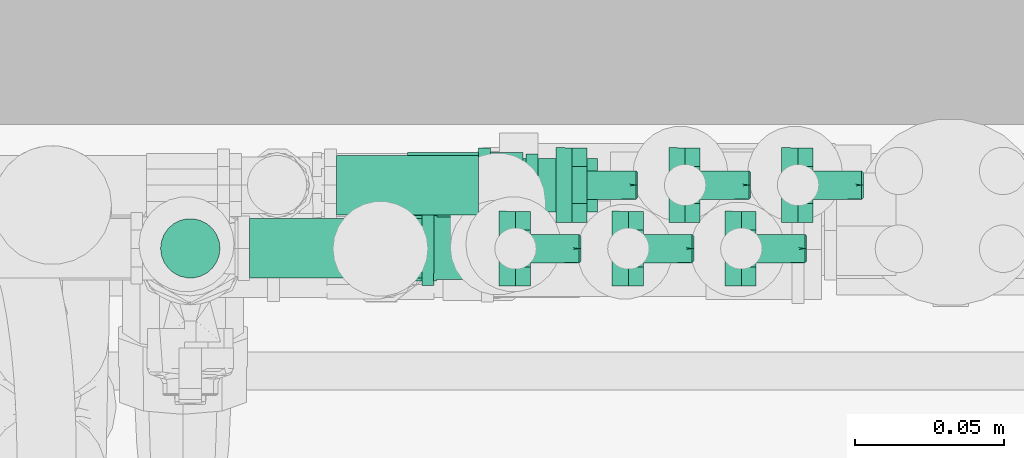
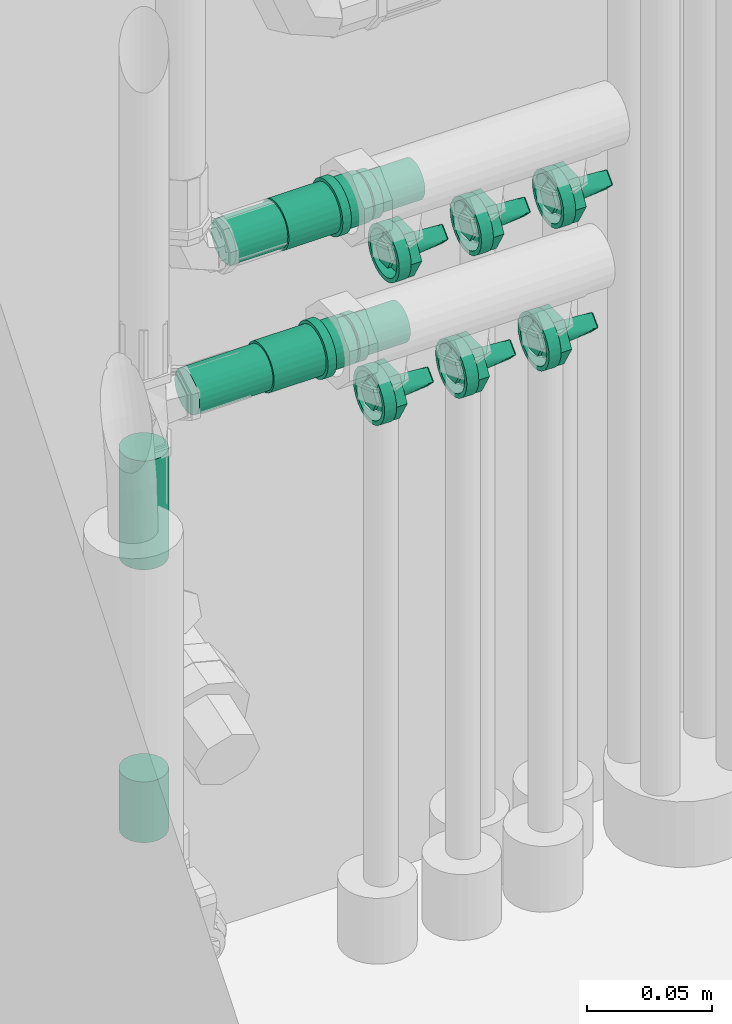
# One storey, part 23 of 32: 8 flow fittings, 4 flow segments.
"""IFC2X3 building model written with IfcOpenShell, lengths in metres."""

import ifcopenshell
import ifcopenshell.guid

model = None  # the IFC model being written
_history = None  # IfcOwnerHistory: only IFC2X3 demands one
_inside = {}  # id of a spatial element -> (the spatial element, [elements in it])
_under = {}  # id of a project, library or spatial element -> (it, [spatial elements below it])
_declared = {}  # id of a project -> (the project, [libraries it declares])
_typed = {}  # id of a type object -> (the type object, [elements of that type])
_made_of = {}  # id of a material, layer set ... -> (it, [elements and type objects made of it])


def new_model(schema):
    """Start an empty IFC model of exactly this schema.

    Asked for "IFC4X3", IfcOpenShell would pick the latest addendum, in which some entities
    have other attributes; the version numbers below select the first issue.
    IFC2X3 requires an IfcOwnerHistory on every rooted entity: one is made here for all.
    """
    global model, _history
    if schema == "IFC4X3":
        model = ifcopenshell.file(schema_version=(4, 3, 0, 0))
    else:
        model = ifcopenshell.file(schema=schema)
    _inside.clear()
    _under.clear()
    _declared.clear()
    _typed.clear()
    _made_of.clear()
    _history = None
    if model.schema == "IFC2X3":
        org = make("IfcOrganization", Name="unknown")
        user = make(
            "IfcPersonAndOrganization",
            ThePerson=make("IfcPerson", FamilyName="unknown"),
            TheOrganization=org,
        )
        app = make(
            "IfcApplication",
            ApplicationDeveloper=org,
            Version="unknown",
            ApplicationFullName="unknown",
            ApplicationIdentifier="unknown",
        )
        _history = make(
            "IfcOwnerHistory",
            OwningUser=user,
            OwningApplication=app,
            ChangeAction="ADDED",
            CreationDate=0,
        )
    return model


def make(cls, **values):
    """One entity of the class cls with the attributes given. An attribute that is None is left unset."""
    return model.create_entity(
        cls, **{name: value for name, value in values.items() if value is not None}
    )


def entity(cls, *values):
    """Any entity or typed value of the class cls, its attributes in the order of the schema. None: left unset."""
    e = model.create_entity(cls)
    for i, value in enumerate(values):
        if value is not None:
            e[i] = value
    return e


def rooted(cls, **values):
    """An entity with a GlobalId (a new one), such as an element, a storey or a relation."""
    return make(cls, GlobalId=ifcopenshell.guid.new(), OwnerHistory=_history, **values)


def si_unit(unit_type, name, prefix=None):
    """IfcSIUnit, for example si_unit("LENGTHUNIT", "METRE", prefix="MILLI")."""
    return make("IfcSIUnit", UnitType=unit_type, Prefix=prefix, Name=name)


def converted_unit(unit_type, name, factor, base, dimensions=None, offset=None):
    """IfcConversionBasedUnit, such as the inch: factor (a typed value) times the base unit."""
    return make(
        "IfcConversionBasedUnit"
        if offset is None
        else "IfcConversionBasedUnitWithOffset",
        ConversionOffset=offset,
        Dimensions=None
        if dimensions is None
        else entity("IfcDimensionalExponents", *dimensions),
        UnitType=unit_type,
        Name=name,
        ConversionFactor=make(
            "IfcMeasureWithUnit", ValueComponent=factor, UnitComponent=base
        ),
    )


def derived_unit(unit_type, elements):
    """IfcDerivedUnit: a product of units, each with its exponent."""
    return make(
        "IfcDerivedUnit",
        Elements=[
            make("IfcDerivedUnitElement", Unit=unit, Exponent=power)
            for unit, power in elements
        ],
        UnitType=unit_type,
    )


def assignment(units):
    """IfcUnitAssignment: the units of a project."""
    return None if units is None else make("IfcUnitAssignment", Units=units)


def point(xyz):
    """IfcCartesianPoint."""
    return None if xyz is None else make("IfcCartesianPoint", Coordinates=xyz)


def direction(xyz):
    """IfcDirection."""
    return None if xyz is None else make("IfcDirection", DirectionRatios=xyz)


def frame(location, z_axis=None, x_axis=None):
    """IfcAxis2Placement3D, a coordinate frame: its origin and axes. An axis left out is left unset."""
    return make(
        "IfcAxis2Placement3D",
        Location=point(location),
        Axis=direction(z_axis),
        RefDirection=direction(x_axis),
    )


def frame_2d(location, x_axis=None):
    """IfcAxis2Placement2D, a coordinate frame in the plane: its origin and x axis."""
    return make(
        "IfcAxis2Placement2D", Location=point(location), RefDirection=direction(x_axis)
    )


def origin():
    """The frame at (0, 0, 0) with its axes left unset."""
    return frame((0.0, 0.0, 0.0))


def origin_2d_with_axis():
    """The frame at (0, 0) in the plane with the x axis (1, 0) written out."""
    return frame_2d((0.0, 0.0), x_axis=(1.0, 0.0))


def place(relative_to, where):
    """IfcLocalPlacement: puts the frame where relative to a parent placement (None: the world)."""
    return make(
        "IfcLocalPlacement", PlacementRelTo=relative_to, RelativePlacement=where
    )


def context(
    kind, dimensions, precision=None, world=None, true_north=None, identifier=None
):
    """IfcGeometricRepresentationContext, for example the 3D "Model" context."""
    return make(
        "IfcGeometricRepresentationContext",
        ContextIdentifier=identifier,
        ContextType=kind,
        CoordinateSpaceDimension=dimensions,
        Precision=precision,
        WorldCoordinateSystem=world,
        TrueNorth=true_north,
    )


def subcontext(parent, identifier, kind, view, scale=None):
    """IfcGeometricRepresentationSubContext, for example "Body" below "Model"."""
    return make(
        "IfcGeometricRepresentationSubContext",
        ContextIdentifier=identifier,
        ContextType=kind,
        ParentContext=parent,
        TargetScale=scale,
        TargetView=view,
    )


def project(units=None, contexts=None):
    """IfcProject with its units and contexts."""
    return rooted(
        "IfcProject",
        Name="project",
        RepresentationContexts=contexts,
        UnitsInContext=assignment(units),
    )


def spatial(cls, under=None, at=None, **own):
    """A site, building, storey or space (cls), placed at a placement, below another one or the project."""
    s = rooted(cls, ObjectPlacement=at, **own)
    if under is not None:
        _under.setdefault(under.id(), (under, []))[1].append(s)
    return s


def profile(cls, at=None, kind="AREA", **sizes):
    """A parametric profile (cls). Its sizes go by their IFC names, for example OverallWidth=200.0."""
    return make(cls, ProfileType=kind, Position=at, **sizes)


def circle(**sizes):
    """IfcCircleProfileDef."""
    return profile("IfcCircleProfileDef", **sizes)


def extrude(swept, where, along, depth):
    """IfcExtrudedAreaSolid: the profile swept, set in the frame where, extruded along a direction by depth."""
    return make(
        "IfcExtrudedAreaSolid",
        SweptArea=swept,
        Position=where,
        ExtrudedDirection=direction(along),
        Depth=depth,
    )


def faces_of(points, faces, orient=None, outer=None):
    """IfcFace entities. A face is a list of loops; a loop is a list of indices into points, from 0.

    orient and outer hold one flag for each loop. By default every Orientation is true, the
    first loop of a face is its IfcFaceOuterBound and the others are IfcFaceBound.
    """
    made = []
    for i, loops in enumerate(faces):
        bounds = []
        for j, loop in enumerate(loops):
            is_outer = j == 0 if outer is None else outer[i][j]
            bounds.append(
                make(
                    "IfcFaceOuterBound" if is_outer else "IfcFaceBound",
                    Bound=make("IfcPolyLoop", Polygon=[points[k] for k in loop]),
                    Orientation=True if orient is None else orient[i][j],
                )
            )
        made.append(make("IfcFace", Bounds=bounds))
    return made


def faceted_brep(points, faces, orient=None, outer=None, voids=None):
    """IfcFacetedBrep: a solid bounded by flat faces; with voids (closed shells), ...WithVoids."""
    shared = [point(p) for p in points]
    hull = make("IfcClosedShell", CfsFaces=faces_of(shared, faces, orient, outer))
    if voids is None:
        return make("IfcFacetedBrep", Outer=hull)
    return make(
        "IfcFacetedBrepWithVoids",
        Outer=hull,
        Voids=[
            make(cls, CfsFaces=faces_of(shared, fs, o, b)) for cls, fs, o, b in voids
        ],
    )


def shape(context_of_items, identifier, shape_type, items):
    """IfcShapeRepresentation: the items that make up one representation, for example the "Body"."""
    return make(
        "IfcShapeRepresentation",
        ContextOfItems=context_of_items,
        RepresentationIdentifier=identifier,
        RepresentationType=shape_type,
        Items=items,
    )


def source(mapping_origin, context_of_items, identifier, shape_type, items):
    """IfcRepresentationMap: a shape defined once, which mapped items show again and again."""
    return make(
        "IfcRepresentationMap",
        MappingOrigin=mapping_origin,
        MappedRepresentation=shape(context_of_items, identifier, shape_type, items),
    )


def transform(
    local_origin,
    x_axis=None,
    y_axis=None,
    z_axis=None,
    scale=None,
    scale2=None,
    scale3=None,
    uniform=True,
):
    """IfcCartesianTransformationOperator3D, or its non-uniform kind. x_axis, y_axis, z_axis: its Axis1, 2, 3."""
    if uniform:
        return make(
            "IfcCartesianTransformationOperator3D",
            Axis1=direction(x_axis),
            Axis2=direction(y_axis),
            LocalOrigin=point(local_origin),
            Scale=scale,
            Axis3=direction(z_axis),
        )
    return make(
        "IfcCartesianTransformationOperator3DnonUniform",
        Axis1=direction(x_axis),
        Axis2=direction(y_axis),
        LocalOrigin=point(local_origin),
        Scale=scale,
        Axis3=direction(z_axis),
        Scale2=scale2,
        Scale3=scale3,
    )


def mapped(mapping_source, mapping_target):
    """IfcMappedItem: shows the shape of a source again, moved by a transform."""
    return make(
        "IfcMappedItem", MappingSource=mapping_source, MappingTarget=mapping_target
    )


def material(Name=None, Category=None):
    """IfcMaterial."""
    return make("IfcMaterial", Name=Name, Category=Category)


def material_list(materials):
    """IfcMaterialList."""
    return make("IfcMaterialList", Materials=materials)


def made_of(thing, what):
    """Note that an element or type object is made of a material, layer set ...; save() writes the relation."""
    if what is not None:
        _made_of.setdefault(what.id(), (what, []))[1].append(thing)
    return thing


def type_object(cls, material=None, **own):
    """A type object (cls), such as IfcWallType, which elements share."""
    return made_of(rooted(cls, **own), material)


def type_shapes(of_type, sources):
    """Give a type object the sources (RepresentationMaps) that its elements show as mapped items."""
    of_type.RepresentationMaps = sources


def element(
    cls,
    number,
    at=None,
    inside=None,
    cuts=None,
    type_object=None,
    material=None,
    context=None,
    identifier="Body",
    shape_type=None,
    held_by="IfcProductDefinitionShape",
    body=None,
    shapes=None,
    **own,
):
    """One element of the class cls, such as IfcWall. Its Tag is "e" and its number.

    at: its placement. inside: the storey or other place that contains it. cuts: it is an
    opening in that element (IfcRelVoidsElement). A single representation is given by context,
    identifier, shape_type and body (its items); several are given by shapes. held_by: the class
    of the entity that holds the representations. save() writes the other relations.
    """
    e = rooted(cls, Tag="e%d" % number, ObjectPlacement=at, **own)
    if body is not None:
        shapes = [shape(context, identifier, shape_type, body)]
    if shapes is not None:
        e.Representation = make(held_by, Representations=shapes)
    if inside is not None:
        _inside.setdefault(inside.id(), (inside, []))[1].append(e)
    if cuts is not None:
        rooted(
            "IfcRelVoidsElement", RelatingBuildingElement=cuts, RelatedOpeningElement=e
        )
    if type_object is not None:
        _typed.setdefault(type_object.id(), (type_object, []))[1].append(e)
    return made_of(e, material)


def aggregate(whole, parts):
    """IfcRelAggregates: a whole, such as a stair, and the parts it consists of."""
    return rooted("IfcRelAggregates", RelatingObject=whole, RelatedObjects=parts)


def save(model, path):
    """Write the relations noted so far, then the file.

    IfcRelAggregates (storeys below a building ...), IfcRelContainedInSpatialStructure (elements
    in a storey), IfcRelDefinesByType, IfcRelAssociatesMaterial and IfcRelDeclares: one each for
    every whole, place, type object, material and project.
    """
    for whole, parts in _under.values():
        aggregate(whole, parts)
    for where, things in _inside.values():
        rooted(
            "IfcRelContainedInSpatialStructure",
            RelatedElements=things,
            RelatingStructure=where,
        )
    for kind, things in _typed.values():
        rooted("IfcRelDefinesByType", RelatedObjects=things, RelatingType=kind)
    for what, things in _made_of.values():
        rooted("IfcRelAssociatesMaterial", RelatedObjects=things, RelatingMaterial=what)
    for by, libraries in _declared.values():
        rooted("IfcRelDeclares", RelatingContext=by, RelatedDefinitions=libraries)
    model.write(path)


model = new_model("IFC2X3")

# Units and contexts
model_context = context("Model", 3, precision=1e-05, world=origin(), true_north=direction((6.123031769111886e-17, 1.0)))
body_context = subcontext(model_context, "Body", "Model", "MODEL_VIEW")
ifc_project = project(units=[si_unit("LENGTHUNIT", "METRE"), si_unit("AREAUNIT", "SQUARE_METRE"), si_unit("VOLUMEUNIT", "CUBIC_METRE"), converted_unit("PLANEANGLEUNIT", "DEGREE", entity("IfcPlaneAngleMeasure", 0.017453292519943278), si_unit("PLANEANGLEUNIT", "RADIAN"), dimensions=[0, 0, 0, 0, 0, 0, 0]), si_unit("MASSUNIT", "GRAM", prefix="KILO"), derived_unit("MASSDENSITYUNIT", [(si_unit("MASSUNIT", "GRAM", prefix="KILO"), 1), (si_unit("LENGTHUNIT", "METRE"), -3)]), derived_unit("IONCONCENTRATIONUNIT", [(si_unit("MASSUNIT", "GRAM", prefix="KILO"), 1), (si_unit("LENGTHUNIT", "METRE"), -3)]), derived_unit("MOMENTOFINERTIAUNIT", [(si_unit("LENGTHUNIT", "METRE"), 4)]), si_unit("TIMEUNIT", "SECOND"), si_unit("FREQUENCYUNIT", "HERTZ"), si_unit("THERMODYNAMICTEMPERATUREUNIT", "DEGREE_CELSIUS"), derived_unit("THERMALTRANSMITTANCEUNIT", [(si_unit("MASSUNIT", "GRAM", prefix="KILO"), 1), (si_unit("THERMODYNAMICTEMPERATUREUNIT", "KELVIN"), -1), (si_unit("TIMEUNIT", "SECOND"), -3)]), derived_unit("THERMALCONDUCTANCEUNIT", [(si_unit("MASSUNIT", "GRAM", prefix="KILO"), 1), (si_unit("THERMODYNAMICTEMPERATUREUNIT", "KELVIN"), -1), (si_unit("TIMEUNIT", "SECOND"), -3), (si_unit("LENGTHUNIT", "METRE"), 1)]), derived_unit("VOLUMETRICFLOWRATEUNIT", [(si_unit("LENGTHUNIT", "METRE", prefix="DECI"), 3), (si_unit("TIMEUNIT", "SECOND"), -1)]), derived_unit("MASSFLOWRATEUNIT", [(si_unit("MASSUNIT", "GRAM", prefix="KILO"), 1), (si_unit("TIMEUNIT", "SECOND"), -1)]), derived_unit("ROTATIONALFREQUENCYUNIT", [(si_unit("TIMEUNIT", "SECOND"), -1)]), si_unit("ELECTRICCURRENTUNIT", "AMPERE"), si_unit("ELECTRICVOLTAGEUNIT", "VOLT"), si_unit("POWERUNIT", "WATT"), si_unit("FORCEUNIT", "NEWTON", prefix="KILO"), si_unit("ILLUMINANCEUNIT", "LUX"), si_unit("LUMINOUSFLUXUNIT", "LUMEN"), si_unit("LUMINOUSINTENSITYUNIT", "CANDELA"), si_unit("ENERGYUNIT", "JOULE"), derived_unit("USERDEFINED", [(si_unit("MASSUNIT", "GRAM", prefix="KILO"), -1), (si_unit("LENGTHUNIT", "METRE"), -2), (si_unit("TIMEUNIT", "SECOND"), 3), (si_unit("LUMINOUSFLUXUNIT", "LUMEN"), 1)]), derived_unit("USERDEFINED", [(si_unit("MASSUNIT", "GRAM", prefix="KILO"), 1), (si_unit("TIMEUNIT", "SECOND"), -3), (si_unit("LENGTHUNIT", "METRE"), 3), (si_unit("ELECTRICCURRENTUNIT", "AMPERE"), -2)]), derived_unit("SOUNDPOWERUNIT", [(si_unit("MASSUNIT", "GRAM", prefix="KILO"), 1), (si_unit("TIMEUNIT", "SECOND"), -3), (si_unit("LENGTHUNIT", "METRE"), 2)]), derived_unit("SOUNDPRESSUREUNIT", [(si_unit("MASSUNIT", "GRAM", prefix="KILO"), 1), (si_unit("LENGTHUNIT", "METRE"), -1), (si_unit("TIMEUNIT", "SECOND"), -2)]), derived_unit("LINEARVELOCITYUNIT", [(si_unit("LENGTHUNIT", "METRE"), 1), (si_unit("TIMEUNIT", "SECOND"), -1)]), si_unit("PRESSUREUNIT", "PASCAL"), derived_unit("USERDEFINED", [(si_unit("MASSUNIT", "GRAM", prefix="KILO"), 1), (si_unit("LENGTHUNIT", "METRE"), -2), (si_unit("TIMEUNIT", "SECOND"), -2)]), derived_unit("LINEARFORCEUNIT", [(si_unit("MASSUNIT", "GRAM", prefix="KILO"), 1), (si_unit("TIMEUNIT", "SECOND"), -2)]), derived_unit("PLANARFORCEUNIT", [(si_unit("MASSUNIT", "GRAM", prefix="KILO"), 1), (si_unit("LENGTHUNIT", "METRE"), -1), (si_unit("TIMEUNIT", "SECOND"), -2)]), derived_unit("SPECIFICHEATCAPACITYUNIT", [(si_unit("THERMODYNAMICTEMPERATUREUNIT", "KELVIN"), -1), (si_unit("LENGTHUNIT", "METRE"), 2), (si_unit("TIMEUNIT", "SECOND"), -2)]), derived_unit("HEATFLUXDENSITYUNIT", [(si_unit("MASSUNIT", "GRAM", prefix="KILO"), 1), (si_unit("TIMEUNIT", "SECOND"), -3)]), derived_unit("HEATINGVALUEUNIT", [(si_unit("LENGTHUNIT", "METRE"), 2), (si_unit("TIMEUNIT", "SECOND"), -2)]), derived_unit("VAPORPERMEABILITYUNIT", [(si_unit("LENGTHUNIT", "METRE"), -1), (si_unit("TIMEUNIT", "SECOND"), 1)]), derived_unit("DYNAMICVISCOSITYUNIT", [(si_unit("MASSUNIT", "GRAM", prefix="KILO"), 1), (si_unit("TIMEUNIT", "SECOND"), -1), (si_unit("LENGTHUNIT", "METRE"), -1)]), derived_unit("THERMALEXPANSIONCOEFFICIENTUNIT", [(si_unit("THERMODYNAMICTEMPERATUREUNIT", "KELVIN"), -1)]), derived_unit("MODULUSOFELASTICITYUNIT", [(si_unit("MASSUNIT", "GRAM", prefix="KILO"), 1), (si_unit("LENGTHUNIT", "METRE"), -1), (si_unit("TIMEUNIT", "SECOND"), -2)]), derived_unit("ISOTHERMALMOISTURECAPACITYUNIT", [(si_unit("MASSUNIT", "GRAM", prefix="KILO"), -1), (si_unit("LENGTHUNIT", "METRE"), 3)]), derived_unit("MOISTUREDIFFUSIVITYUNIT", [(si_unit("TIMEUNIT", "SECOND"), -1), (si_unit("LENGTHUNIT", "METRE"), 2)]), derived_unit("MASSPERLENGTHUNIT", [(si_unit("MASSUNIT", "GRAM", prefix="KILO"), 1), (si_unit("LENGTHUNIT", "METRE"), -1)]), derived_unit("THERMALRESISTANCEUNIT", [(si_unit("MASSUNIT", "GRAM", prefix="KILO"), -1), (si_unit("TIMEUNIT", "SECOND"), 3), (si_unit("THERMODYNAMICTEMPERATUREUNIT", "KELVIN"), 1)]), derived_unit("ACCELERATIONUNIT", [(si_unit("LENGTHUNIT", "METRE"), 1), (si_unit("TIMEUNIT", "SECOND"), -2)]), derived_unit("ANGULARVELOCITYUNIT", [(si_unit("TIMEUNIT", "SECOND"), -1), (si_unit("PLANEANGLEUNIT", "RADIAN"), 1)]), derived_unit("LINEARSTIFFNESSUNIT", [(si_unit("MASSUNIT", "GRAM", prefix="KILO"), 1), (si_unit("TIMEUNIT", "SECOND"), -2)]), derived_unit("WARPINGCONSTANTUNIT", [(si_unit("LENGTHUNIT", "METRE"), 6)]), derived_unit("LINEARMOMENTUNIT", [(si_unit("MASSUNIT", "GRAM", prefix="KILO"), 1), (si_unit("LENGTHUNIT", "METRE"), 1), (si_unit("TIMEUNIT", "SECOND"), -2)]), derived_unit("TORQUEUNIT", [(si_unit("MASSUNIT", "GRAM", prefix="KILO"), 1), (si_unit("LENGTHUNIT", "METRE"), 2), (si_unit("TIMEUNIT", "SECOND"), -2)])], contexts=[model_context])

# Site, building, storey
site_placement = place(None, origin())
site = spatial("IfcSite", under=ifc_project, at=site_placement, Name="Default", CompositionType="ELEMENT")
building_placement = place(site_placement, origin())
building = spatial("IfcBuilding", under=site, at=building_placement, CompositionType="ELEMENT")
storey_placement = place(building_placement, origin())
storey = spatial("IfcBuildingStorey", under=building, at=storey_placement, Name="Niveau 0", CompositionType="ELEMENT", Elevation=-1.949160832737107e-14)

# Flow segments
pipe_segment_type = type_object("IfcPipeSegmentType", Name="Canalisation:COMAP MULTISKIN - SKINPRESS PPSU", PredefinedType="NOTDEFINED")
flow_segment_1_placement = place(storey_placement, origin())
element("IfcFlowSegment", 1, at=flow_segment_1_placement, inside=storey, type_object=pipe_segment_type, Name="Canalisation:COMAP MULTISKIN - SKINPRESS PPSU", ObjectType="Canalisation:COMAP MULTISKIN - SKINPRESS PPSU", context=body_context, shape_type="SweptSolid", body=[
    extrude(circle(Radius=0.01, at=origin_2d_with_axis()), frame((-14.012760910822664, 2.826796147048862, 0.29999999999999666), z_axis=(1.0, 0.0, 0.0), x_axis=(0.0, -1.0, 0.0)), (0.0, 0.0, 1.0), 0.05797075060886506),
])
flow_segment_2_placement = place(storey_placement, origin())
element("IfcFlowSegment", 2, at=flow_segment_2_placement, inside=storey, type_object=pipe_segment_type, Name="Canalisation:COMAP MULTISKIN - SKINPRESS PPSU", ObjectType="Canalisation:COMAP MULTISKIN - SKINPRESS PPSU", context=body_context, shape_type="SweptSolid", body=[
    extrude(circle(Radius=0.01, at=origin_2d_with_axis()), frame((-14.032760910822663, 2.826796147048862, 0.09350000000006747)), (0.0, 0.0, 1.0), 0.029749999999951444),
])
flow_segment_3_placement = place(storey_placement, origin())
element("IfcFlowSegment", 3, at=flow_segment_3_placement, inside=storey, type_object=pipe_segment_type, Name="Canalisation:COMAP MULTISKIN - SKINPRESS PPSU", ObjectType="Canalisation:COMAP MULTISKIN - SKINPRESS PPSU", context=body_context, shape_type="SweptSolid", body=[
    extrude(circle(Radius=0.01, at=origin_2d_with_axis()), frame((-14.032760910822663, 2.826796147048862, 0.22675000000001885)), (0.0, 0.0, 1.0), 0.053249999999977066),
])
flow_segment_4_placement = place(storey_placement, origin())
element("IfcFlowSegment", 4, at=flow_segment_4_placement, inside=storey, type_object=pipe_segment_type, Name="Canalisation:COMAP MULTISKIN - SKINPRESS PPSU", ObjectType="Canalisation:COMAP MULTISKIN - SKINPRESS PPSU", context=body_context, shape_type="SweptSolid", body=[
    extrude(circle(Radius=0.01, at=frame_2d((0.0, 6.767919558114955e-17), x_axis=(1.0, 0.0))), frame((-13.983550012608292, 2.848101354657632, 0.35000000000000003), z_axis=(1.0, 0.0, 0.0), x_axis=(0.0, 1.0, 0.0)), (0.0, 0.0, 1.0), 0.047844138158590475),
])

# Flow fittings
ifc_material_1 = material(Name="Color RGB 202-154-058")
pipe_fitting_type_1 = type_object("IfcPipeFittingType", Name="SA_Connection Piece_MEPcontent_Valsir_Pexal BRASS_Kit with Nut_Shared:14 mm x 2 mm-1/2''", PredefinedType="NOTDEFINED", material=ifc_material_1)
shared_shape_1 = source(origin(), body_context, "Body", "Brep", [
    faceted_brep([(0.0, 0.012144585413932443, -0.0032541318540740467), (0.0, 0.0125345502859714, 0.0), (0.0, 0.006267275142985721, -0.010855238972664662), (0.0, 0.008890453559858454, -0.008890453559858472), (0.0, 0.010888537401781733, -0.00628650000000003), (0.0, -0.006267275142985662, -0.010855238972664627), (0.0, -0.0038867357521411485, -0.011957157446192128), (0.0, -0.001316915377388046, -0.012503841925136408), (0.0, 0.0013113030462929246, -0.012504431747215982), (0.0, 0.003882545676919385, -0.011958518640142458), (0.0, 0.00889045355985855, 0.008890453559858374), (0.0, 0.006267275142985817, 0.010855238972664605), (0.0, 0.012144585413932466, 0.0032541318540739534), (0.0, 0.01088853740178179, 0.006286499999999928), (0.0, -0.012573, 0.0), (0.0, -0.01229757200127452, -0.002617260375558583), (0.0, -0.011484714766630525, -0.005116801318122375), (0.0, -0.010170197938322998, -0.007392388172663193), (0.0, -0.008411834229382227, -0.009344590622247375), (0.0, 0.003882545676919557, 0.0119585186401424), (0.0, 0.0013113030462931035, 0.012504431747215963), (0.0, -0.0013169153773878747, 0.012503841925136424), (0.0, -0.0038867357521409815, 0.01195715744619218), (0.0, -0.0062672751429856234, 0.010855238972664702), (0.0, -0.008411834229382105, 0.009344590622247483), (0.0, -0.010170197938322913, 0.007392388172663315), (0.0, -0.01148471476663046, 0.005116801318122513), (0.0, -0.01229757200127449, 0.0026172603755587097), (0.004999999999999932, 0.006267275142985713, -0.010855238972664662), (0.004999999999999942, 0.012534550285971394, 0.0), (0.004999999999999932, 0.0062672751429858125, 0.010855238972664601), (0.00499999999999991, -0.006267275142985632, 0.010855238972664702), (0.0049999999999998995, -0.01253455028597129, 0.0), (0.00499999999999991, -0.006267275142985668, -0.010855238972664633), (0.0, -0.009223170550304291, 0.005324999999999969), (0.0, -0.00753068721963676, 0.007530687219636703), (0.0, -0.008149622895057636, 0.004705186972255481), (0.0, -0.009089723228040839, 0.0024355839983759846), (0.0, -0.010287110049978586, 0.0027564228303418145), (0.0, -0.006654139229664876, 0.006654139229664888), (0.0, -0.005325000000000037, 0.00922317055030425), (0.0, -0.004705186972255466, 0.008149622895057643), (0.0, -0.0024355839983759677, 0.009089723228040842), (0.0, -0.0027564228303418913, 0.010287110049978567), (0.0, 0.0, 0.009410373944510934), (0.0, 0.0, 0.010650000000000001), (0.0, 0.0024355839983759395, 0.009089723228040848), (0.0, 0.002756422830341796, 0.010287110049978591), (0.0, 0.004705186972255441, 0.008149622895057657), (0.0, 0.005324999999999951, 0.0092231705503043), (0.0, 0.006654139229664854, 0.006654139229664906), (0.0, 0.007530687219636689, 0.0075306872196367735), (0.0, 0.008149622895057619, 0.0047051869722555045), (0.0, 0.00922317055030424, 0.0053250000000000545), (0.0, 0.009089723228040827, 0.0024355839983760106), (0.0, 0.01028711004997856, 0.0027564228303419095), (0.0, 0.009410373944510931, 0.0), (0.0, 0.010649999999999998, 0.0), (0.0, 0.00908972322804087, -0.002435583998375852), (0.0, 0.010287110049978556, -0.0027564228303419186), (0.0, 0.008149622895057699, -0.004705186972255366), (0.0, 0.009223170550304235, -0.005325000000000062), (0.0, 0.006654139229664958, -0.006654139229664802), (0.0, 0.007530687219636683, -0.00753068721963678), (0.0, 0.004705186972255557, -0.00814962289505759), (0.0, 0.0053249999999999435, -0.009223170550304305), (0.0, 0.0027564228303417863, -0.010287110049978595), (0.0, 0.002435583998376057, -0.009089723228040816), (0.0, 0.0, -0.010650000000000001), (0.0, 0.0, -0.009410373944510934), (0.0, -0.0027564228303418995, -0.010287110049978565), (0.0, -0.0024355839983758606, -0.00908972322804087), (0.0, -0.005325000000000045, -0.009223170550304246), (0.0, -0.004705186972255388, -0.008149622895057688), (0.0, -0.0075306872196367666, -0.007530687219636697), (0.0, -0.006654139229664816, -0.006654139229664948), (0.0, -0.009223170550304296, -0.005324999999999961), (0.0, -0.008149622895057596, -0.004705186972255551), (0.0, -0.01028711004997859, -0.0027564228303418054), (0.0, -0.009089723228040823, -0.002435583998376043), (0.0, -0.010650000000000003, 0.0), (0.0, -0.009410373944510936, 0.0), (0.004999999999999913, -0.004156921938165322, -0.002400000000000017), (0.0049999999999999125, -0.004636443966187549, -0.001242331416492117), (0.0049999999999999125, -0.004800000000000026, 0.0), (0.0049999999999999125, -0.004636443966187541, 0.0012423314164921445), (0.004999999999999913, -0.0041569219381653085, 0.0024000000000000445), (0.004999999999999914, -0.003394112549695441, -0.0033941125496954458), (0.004999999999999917, -0.002400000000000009, -0.004156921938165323), (0.004999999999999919, -0.0012423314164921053, -0.004636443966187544), (0.004999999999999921, 0.0, -0.004800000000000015), (0.004999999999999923, 0.001242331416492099, -0.004636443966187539), (0.004999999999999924, 0.002400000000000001, -0.0041569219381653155), (0.004999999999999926, 0.00339411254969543, -0.003394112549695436), (0.004999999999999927, 0.0041569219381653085, -0.0024000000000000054), (0.004999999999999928, 0.004636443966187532, -0.0012423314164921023), (0.004999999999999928, 0.004800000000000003, 0.0), (0.004999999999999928, 0.004636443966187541, 0.0012423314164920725), (0.004999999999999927, 0.004156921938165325, 0.002399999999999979), (0.004999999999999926, 0.003394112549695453, 0.003394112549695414), (0.004999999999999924, 0.002400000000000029, 0.004156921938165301), (0.004999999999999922, 0.0012423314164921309, 0.004636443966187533), (0.0049999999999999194, 0.0, 0.004800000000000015), (0.004999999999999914, -0.003394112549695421, 0.003394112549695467), (0.004999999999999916, -0.002399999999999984, 0.004156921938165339), (0.004999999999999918, -0.001242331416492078, 0.004636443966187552), (0.021999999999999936, 0.0, 0.0), (0.021999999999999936, -0.004225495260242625, 0.0), (0.021999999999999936, -0.002112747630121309, -0.0021127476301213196), (0.021999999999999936, 0.0, -0.004225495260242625), (0.021999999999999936, 0.001462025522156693, -0.0027634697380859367), (0.021999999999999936, 0.004225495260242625, 0.0), (0.02199999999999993, 0.002112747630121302, 0.0021127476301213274), (0.021999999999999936, -0.0014620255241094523, 0.0027634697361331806), (0.021999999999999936, 0.0, 0.004225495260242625), (0.021425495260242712, 0.004800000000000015, 0.0), (0.021425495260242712, 0.002400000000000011, -0.0024000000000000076), (0.021425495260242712, 0.0, -0.004800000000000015), (0.021425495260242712, -0.0024000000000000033, -0.002400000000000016), (0.021425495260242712, -0.004800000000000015, 0.0), (0.021425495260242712, -0.0024000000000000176, 0.0024000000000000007), (0.021425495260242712, 0.0, 0.004800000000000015), (0.021425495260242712, 0.0023999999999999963, 0.0024000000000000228), (-0.0017731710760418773, 0.009410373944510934, 0.0), (-0.0017731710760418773, 0.004705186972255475, -0.008149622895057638), (-0.0017731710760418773, -0.004705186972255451, -0.008149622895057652), (-0.0017731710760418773, -0.009410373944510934, 0.0), (-0.0017731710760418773, -0.004705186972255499, 0.008149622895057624), (-0.0017731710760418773, 0.004705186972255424, 0.008149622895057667), (-0.005500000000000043, -0.0031499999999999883, -0.00545596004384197), (-0.005500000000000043, -0.0063, 0.0), (-0.005500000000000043, 0.0, 0.0), (-0.005500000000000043, 0.0031500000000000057, -0.00545596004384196), (-0.005500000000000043, -0.003150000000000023, 0.005455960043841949), (-0.005500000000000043, 0.00314999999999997, 0.005455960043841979), (-0.005500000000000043, 0.0063, 0.0), (-0.005500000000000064, -0.006286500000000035, -0.010888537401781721), (-0.005500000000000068, -0.008890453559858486, -0.00889045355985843), (-0.005500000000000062, -0.005324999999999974, -0.009223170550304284), (-0.005500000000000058, -0.002756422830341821, -0.010287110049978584), (-0.005500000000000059, -0.003254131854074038, -0.012144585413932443), (-0.0055000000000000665, -0.007530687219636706, -0.007530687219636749), (-0.005500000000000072, -0.010888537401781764, -0.006286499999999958), (-0.005500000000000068, -0.00922317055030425, -0.005325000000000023), (-0.005500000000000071, -0.010287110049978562, -0.0027564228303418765), (-0.005500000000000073, -0.012144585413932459, -0.0032541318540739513), (-0.005500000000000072, -0.010649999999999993, 0.0), (-0.005500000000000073, -0.012572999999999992, 0.0), (-0.005500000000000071, -0.010287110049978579, 0.00275642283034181), (-0.005500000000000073, -0.012144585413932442, 0.0032541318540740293), (-0.005500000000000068, -0.009223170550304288, 0.005324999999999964), (-0.005500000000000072, -0.010888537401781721, 0.006286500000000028), (-0.0055000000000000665, -0.007530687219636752, 0.007530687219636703), (-0.005500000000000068, -0.008890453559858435, 0.008890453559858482), (-0.005500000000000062, -0.0053250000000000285, 0.00922317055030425), (-0.005500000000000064, -0.00628649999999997, 0.010888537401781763), (-0.005500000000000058, -0.002756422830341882, 0.010287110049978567), (-0.005500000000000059, -0.003254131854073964, 0.012144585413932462), (-0.0055000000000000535, 0.0, 0.010650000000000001), (-0.0055000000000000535, 0.0, 0.012573), (-0.005500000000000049, 0.002756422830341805, 0.010287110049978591), (-0.005500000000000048, 0.003254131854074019, 0.012144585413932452), (-0.005500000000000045, 0.00532499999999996, 0.0092231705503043), (-0.005500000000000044, 0.00628650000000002, 0.010888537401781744), (-0.005500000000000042, 0.007530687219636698, 0.0075306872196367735), (-0.00550000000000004, 0.008890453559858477, 0.008890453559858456), (-0.005500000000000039, 0.00922317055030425, 0.0053250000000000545), (-0.005500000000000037, 0.010888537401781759, 0.006286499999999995), (-0.005500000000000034, 0.012144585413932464, 0.0032541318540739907), (-0.005500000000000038, 0.010287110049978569, 0.0027564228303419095), (-0.0055000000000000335, 0.01257300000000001, 0.0), (-0.005500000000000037, 0.010650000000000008, 0.0), (-0.005500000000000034, 0.012144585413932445, -0.0032541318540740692), (-0.005500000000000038, 0.010287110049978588, -0.0027564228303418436), (-0.005500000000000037, 0.01088853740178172, -0.0062865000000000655), (-0.005500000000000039, 0.009223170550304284, -0.005324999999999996), (-0.00550000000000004, 0.008890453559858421, -0.008890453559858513), (-0.005500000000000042, 0.007530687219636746, -0.007530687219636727), (-0.005500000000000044, 0.006286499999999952, -0.010888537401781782), (-0.005500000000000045, 0.005325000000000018, -0.009223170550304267), (-0.005500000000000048, 0.0032541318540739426, -0.012144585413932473), (-0.005500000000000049, 0.0027564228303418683, -0.010287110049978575), (-0.0055000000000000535, 0.0, -0.012573), (-0.0055000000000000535, 0.0, -0.010650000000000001), (-0.003958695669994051, 0.0031500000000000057, -0.00545596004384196), (-0.003958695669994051, 0.0063, 0.0), (-0.003958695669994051, -0.0031499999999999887, -0.00545596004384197), (-0.003958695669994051, -0.0063, 0.0), (-0.003958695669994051, -0.0031500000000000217, 0.00545596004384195), (-0.003958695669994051, 0.0031499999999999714, 0.00545596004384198)], [[[0, 1, 2, 3, 4]], [[2, 5, 6, 7, 8, 9]], [[10, 11, 1, 12, 13]], [[5, 14, 15, 16, 17, 18]], [[19, 20, 21, 22, 23, 11]], [[23, 24, 25, 26, 27, 14]], [[28, 2, 1, 29]], [[29, 1, 11, 30]], [[30, 11, 23, 31]], [[31, 23, 14]], [[14, 32, 31]], [[32, 14, 5]], [[5, 33, 32]], [[34, 35, 36]], [[34, 36, 37]], [[37, 38, 34]], [[36, 35, 39]], [[40, 39, 35]], [[41, 39, 40]], [[42, 41, 40]], [[42, 40, 43]], [[42, 43, 44]], [[44, 43, 45]], [[46, 44, 45]], [[46, 45, 47]], [[48, 46, 47]], [[48, 47, 49]], [[50, 48, 49]], [[49, 51, 50]], [[51, 52, 50]], [[51, 53, 52]], [[52, 53, 54]], [[55, 54, 53]], [[54, 55, 56]], [[56, 55, 57]], [[56, 57, 58]], [[58, 57, 59]], [[58, 59, 60]], [[61, 60, 59]], [[61, 62, 60]], [[62, 61, 63]], [[64, 62, 63]], [[65, 64, 63]], [[66, 64, 65]], [[67, 64, 66]], [[67, 66, 68]], [[69, 67, 68]], [[70, 69, 68]], [[70, 71, 69]], [[71, 70, 72]], [[73, 71, 72]], [[73, 72, 74]], [[73, 74, 75]], [[74, 76, 75]], [[75, 76, 77]], [[77, 76, 78]], [[78, 79, 77]], [[80, 79, 78]], [[38, 81, 80]], [[80, 81, 79]], [[38, 37, 81]], [[33, 5, 2, 28]], [[32, 33, 82]], [[32, 82, 83]], [[84, 32, 83]], [[32, 84, 85]], [[86, 32, 85]], [[32, 86, 31]], [[82, 33, 87]], [[88, 87, 33]], [[89, 88, 33]], [[90, 89, 33]], [[33, 28, 90]], [[91, 90, 28]], [[92, 91, 28]], [[93, 92, 28]], [[28, 94, 93]], [[29, 94, 28]], [[95, 94, 29]], [[29, 96, 95]], [[29, 97, 96]], [[97, 29, 98]], [[30, 98, 29]], [[98, 30, 99]], [[100, 99, 30]], [[100, 30, 101]], [[102, 101, 30]], [[102, 30, 31]], [[86, 103, 31]], [[103, 104, 31]], [[104, 105, 31]], [[31, 105, 102]], [[106, 107, 108]], [[106, 108, 109]], [[106, 109, 110]], [[106, 110, 111]], [[106, 111, 112]], [[106, 113, 107]], [[106, 114, 113]], [[106, 112, 114]], [[96, 115, 95]], [[93, 115, 116, 117]], [[115, 94, 95]], [[93, 94, 115]], [[91, 92, 117]], [[93, 117, 92]], [[117, 90, 91]], [[90, 117, 89]], [[117, 87, 88]], [[88, 89, 117]], [[87, 117, 118, 119]], [[82, 87, 119]], [[84, 83, 119]], [[82, 119, 83]], [[84, 119, 85]], [[103, 119, 120, 121]], [[119, 86, 85]], [[103, 86, 119]], [[105, 104, 121]], [[103, 121, 104]], [[121, 102, 105]], [[102, 121, 101]], [[121, 99, 100]], [[100, 101, 121]], [[99, 121, 122, 115]], [[98, 99, 115]], [[96, 97, 115]], [[98, 115, 97]], [[123, 56, 58]], [[58, 60, 123]], [[62, 124, 60]], [[60, 124, 123]], [[124, 62, 64]], [[124, 67, 69]], [[67, 124, 64]], [[125, 69, 71]], [[71, 73, 125]], [[75, 125, 73]], [[125, 77, 126]], [[77, 125, 75]], [[79, 81, 126]], [[79, 126, 77]], [[69, 125, 124]], [[126, 81, 37]], [[37, 36, 126]], [[39, 127, 36]], [[36, 127, 126]], [[127, 39, 41]], [[127, 42, 44]], [[42, 127, 41]], [[128, 44, 46]], [[46, 48, 128]], [[50, 128, 48]], [[128, 52, 123]], [[52, 128, 50]], [[54, 56, 123]], [[54, 123, 52]], [[44, 128, 127]], [[129, 130, 131]], [[131, 132, 129]], [[130, 133, 131]], [[134, 131, 133]], [[131, 134, 135]], [[131, 135, 132]], [[129, 130, 131]], [[131, 132, 129]], [[130, 133, 131]], [[134, 131, 133]], [[131, 134, 135]], [[131, 135, 132]], [[136, 137, 138]], [[136, 138, 139]], [[139, 140, 136]], [[138, 137, 141]], [[142, 141, 137]], [[143, 141, 142]], [[144, 143, 142]], [[144, 142, 145]], [[144, 145, 146]], [[146, 145, 147]], [[148, 146, 147]], [[148, 147, 149]], [[150, 148, 149]], [[150, 149, 151]], [[152, 150, 151]], [[151, 153, 152]], [[153, 154, 152]], [[153, 155, 154]], [[154, 155, 156]], [[157, 156, 155]], [[156, 157, 158]], [[158, 157, 159]], [[158, 159, 160]], [[160, 159, 161]], [[160, 161, 162]], [[163, 162, 161]], [[163, 164, 162]], [[164, 163, 165]], [[166, 164, 165]], [[167, 166, 165]], [[168, 166, 167]], [[169, 166, 168]], [[169, 168, 170]], [[171, 169, 170]], [[172, 171, 170]], [[172, 173, 171]], [[173, 172, 174]], [[175, 173, 174]], [[175, 174, 176]], [[175, 176, 177]], [[176, 178, 177]], [[177, 178, 179]], [[179, 178, 180]], [[180, 181, 179]], [[182, 181, 180]], [[140, 183, 182]], [[182, 183, 181]], [[140, 139, 183]], [[117, 116, 115, 111, 110, 109]], [[118, 117, 109, 108, 107, 119]], [[121, 120, 119, 107, 113, 114]], [[122, 121, 114, 112, 111, 115]], [[123, 124, 184, 185]], [[124, 125, 186, 184]], [[125, 126, 187, 186]], [[126, 127, 188, 187]], [[127, 128, 189, 188]], [[128, 123, 185, 189]], [[185, 184, 132, 135]], [[184, 186, 129, 132]], [[186, 187, 130, 129]], [[187, 188, 133, 130]], [[188, 189, 134, 133]], [[189, 185, 135, 134]], [[57, 171, 173, 59]], [[59, 173, 175, 61]], [[65, 63, 177, 179]], [[175, 177, 63, 61]], [[66, 65, 179, 181]], [[183, 68, 66, 181]], [[70, 139, 138, 72]], [[72, 138, 141, 74]], [[78, 76, 143, 144]], [[141, 143, 76, 74]], [[80, 78, 144, 146]], [[70, 68, 183, 139]], [[80, 146, 148, 38]], [[38, 148, 150, 34]], [[40, 35, 152, 154]], [[150, 152, 35, 34]], [[43, 40, 154, 156]], [[158, 45, 43, 156]], [[47, 160, 162, 49]], [[49, 162, 164, 51]], [[55, 53, 166, 169]], [[164, 166, 53, 51]], [[57, 55, 169, 171]], [[47, 45, 158, 160]], [[168, 1, 170]], [[167, 13, 12, 168]], [[10, 165, 163]], [[163, 161, 19]], [[167, 165, 10, 13]], [[159, 20, 161]], [[12, 1, 168]], [[19, 11, 163]], [[10, 163, 11]], [[20, 19, 161]], [[159, 21, 20]], [[155, 22, 157]], [[153, 24, 155]], [[26, 151, 149]], [[149, 147, 27]], [[153, 151, 25]], [[14, 27, 147]], [[155, 23, 22]], [[22, 21, 157]], [[26, 25, 151]], [[24, 153, 25]], [[24, 23, 155]], [[27, 26, 149]], [[157, 21, 159]], [[145, 15, 147]], [[142, 16, 145]], [[18, 137, 136]], [[136, 140, 6]], [[7, 140, 182]], [[142, 137, 17]], [[7, 6, 140]], [[145, 16, 15]], [[15, 14, 147]], [[5, 18, 136]], [[17, 137, 18]], [[17, 16, 142]], [[6, 5, 136]], [[180, 8, 182]], [[178, 9, 180]], [[3, 176, 174, 4]], [[174, 172, 0, 4]], [[178, 176, 2]], [[170, 0, 172]], [[178, 2, 9]], [[9, 8, 180]], [[2, 176, 3]], [[170, 1, 0]], [[182, 8, 7]]]),
])
type_shapes(pipe_fitting_type_1, [shared_shape_1])
for number, where in (
    (5, (-13.885290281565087, 2.8267264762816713, 0.2685)),
    (6, (-13.847290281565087, 2.8267264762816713, 0.2685)),
    (7, (-13.923290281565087, 2.8267264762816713, 0.2685)),
    (8, (-13.866205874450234, 2.848101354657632, 0.31850000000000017)),
    (9, (-13.828205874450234, 2.848101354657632, 0.31850000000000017)),
    (10, (-13.904205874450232, 2.848101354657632, 0.31850000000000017)),
):
    element("IfcFlowFitting", number, at=place(storey_placement, frame(where)), inside=storey, type_object=pipe_fitting_type_1, material=ifc_material_1, Name="SA_Connection Piece_MEPcontent_Valsir_Pexal BRASS_Kit with Nut_Shared:14 mm x 2 mm-1/2''", ObjectType="SA_Connection Piece_MEPcontent_Valsir_Pexal BRASS_Kit with Nut_Shared:14 mm x 2 mm-1/2''", context=body_context, shape_type="MappedRepresentation", body=[
        mapped(shared_shape_1, transform((0.0, 0.0, 0.0), scale=1.0)),
    ])
ifc_material_2 = material(Name="Bague blanche VisuControl")
ifc_material_3 = material(Name="Inox")
ifc_material_4 = material(Name="PPSU")
ifc_material_list = material_list([ifc_material_2, ifc_material_3, ifc_material_4])
pipe_fitting_type_2 = type_object("IfcPipeFittingType", Name="COMAP - SKINPRESS ppsu - Manchon_Réduit_9240W:Manchon_Réduit_9240W", PredefinedType="NOTDEFINED", material=ifc_material_list)
shared_shape_2 = source(origin(), body_context, "Body", "SweptSolid", [
    extrude(circle(Radius=0.012499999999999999, at=frame_2d((9.65640692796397e-19, -2.0194307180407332e-17), x_axis=(1.0, 0.0))), frame((-0.01000000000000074, 0.0, 0.0), z_axis=(1.0, 0.0, 0.0), x_axis=(0.0, 1.0, 0.0)), (0.0, 0.0, 1.0), 0.004),
    extrude(circle(Radius=0.011, at=frame_2d((-4.99853699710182e-19, -1.777099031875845e-17), x_axis=(1.0, 0.0))), frame((-0.034000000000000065, 0.0, 0.0), z_axis=(1.0, 0.0, 0.0), x_axis=(0.0, 1.0, 0.0)), (0.0, 0.0, 1.0), 0.029),
    extrude(circle(Radius=0.0105, at=frame_2d((-3.812600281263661e-19, -4.727230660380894e-17), x_axis=(1.0, 0.0))), frame((0.006000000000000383, 0.0, 0.0), z_axis=(1.0, 0.0, 0.0), x_axis=(0.0, -1.0, 0.0)), (0.0, 0.0, 1.0), 0.004000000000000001),
    extrude(circle(Radius=0.009000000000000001, at=frame_2d((3.542627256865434e-19, -4.051911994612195e-17), x_axis=(1.0, 0.0))), frame((0.005000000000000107, 0.0, 0.0), z_axis=(1.0, 0.0, 0.0), x_axis=(0.0, -1.0, 0.0)), (0.0, 0.0, 1.0), 0.025),
    extrude(circle(Radius=0.010499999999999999, at=frame_2d((0.0, -1.696321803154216e-17), x_axis=(1.0, 0.0))), frame((-0.005000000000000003, 0.0, 0.0), z_axis=(1.0, 0.0, 0.0), x_axis=(0.0, 1.0, 0.0)), (0.0, 0.0, 1.0), 0.010000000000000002),
])
type_shapes(pipe_fitting_type_2, [shared_shape_2])
flow_fitting_1_placement = place(storey_placement, frame((-13.944790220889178, 2.8267613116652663, 0.2999999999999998), z_axis=(0.0, 0.0, 1.0), x_axis=(0.9999939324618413, -0.0034835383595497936, 0.0)))
element("IfcFlowFitting", 11, at=flow_fitting_1_placement, inside=storey, type_object=pipe_fitting_type_2, material=ifc_material_list, Name="COMAP - SKINPRESS ppsu - Manchon_Réduit_9240W:Manchon_Réduit_9240W", ObjectType="COMAP - SKINPRESS ppsu - Manchon_Réduit_9240W:Manchon_Réduit_9240W", context=body_context, shape_type="MappedRepresentation", body=[
    mapped(shared_shape_2, transform((0.0, 0.0, 0.0), scale=1.0)),
])
pipe_fitting_type_3 = type_object("IfcPipeFittingType", Name="COMAP - SKINPRESS ppsu - Manchon_Réduit_9240W:Manchon_Réduit_9240W", PredefinedType="NOTDEFINED", material=ifc_material_list)
shared_shape_3 = source(origin(), body_context, "Body", "SweptSolid", [
    extrude(circle(Radius=0.0105, at=frame_2d((6.058315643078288e-19, -1.696321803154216e-17), x_axis=(1.0, 0.0))), frame((-0.01000000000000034, 0.0, 0.0), z_axis=(1.0, 0.0, 0.0), x_axis=(0.0, 1.0, 0.0)), (0.0, 0.0, 1.0), 0.004),
    extrude(circle(Radius=0.009000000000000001, at=frame_2d((4.420736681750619e-19, -1.453990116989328e-17), x_axis=(1.0, 0.0))), frame((-0.03000000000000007, 0.0, 0.0), z_axis=(1.0, 0.0, 0.0), x_axis=(0.0, 1.0, 0.0)), (0.0, 0.0, 1.0), 0.025),
    extrude(circle(Radius=0.012499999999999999, at=frame_2d((5.588957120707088e-19, -5.627655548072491e-17), x_axis=(1.0, 0.0))), frame((0.006000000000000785, 0.0, 0.0), z_axis=(1.0, 0.0, 0.0), x_axis=(0.0, -1.0, 0.0)), (0.0, 0.0, 1.0), 0.004),
    extrude(circle(Radius=0.011, at=frame_2d((2.369310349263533e-19, -4.9523368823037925e-17), x_axis=(1.0, 0.0))), frame((0.005000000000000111, 0.0, 0.0), z_axis=(1.0, 0.0, 0.0), x_axis=(0.0, -1.0, 0.0)), (0.0, 0.0, 1.0), 0.029),
    extrude(circle(Radius=0.011, at=frame_2d((0.0, -1.777099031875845e-17), x_axis=(1.0, 0.0))), frame((-0.005000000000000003, 0.0, 0.0), z_axis=(1.0, 0.0, 0.0), x_axis=(0.0, 1.0, 0.0)), (0.0, 0.0, 1.0), 0.010000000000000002),
])
type_shapes(pipe_fitting_type_3, [shared_shape_3])
flow_fitting_2_placement = place(storey_placement, frame((-13.925705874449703, 2.848101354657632, 0.35), z_axis=(0.0, 0.0, 1.0), x_axis=(-1.0, 0.0, 0.0)))
element("IfcFlowFitting", 12, at=flow_fitting_2_placement, inside=storey, type_object=pipe_fitting_type_3, material=ifc_material_list, Name="COMAP - SKINPRESS ppsu - Manchon_Réduit_9240W:Manchon_Réduit_9240W", ObjectType="COMAP - SKINPRESS ppsu - Manchon_Réduit_9240W:Manchon_Réduit_9240W", context=body_context, shape_type="MappedRepresentation", body=[
    mapped(shared_shape_3, transform((0.0, 0.0, 0.0), scale=1.0)),
])

save(model, "model.ifc")
